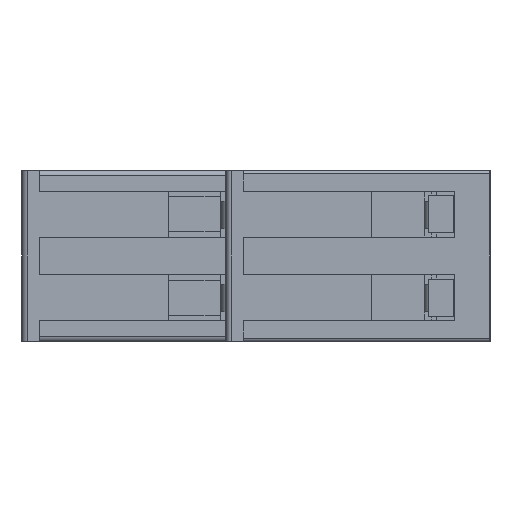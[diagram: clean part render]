
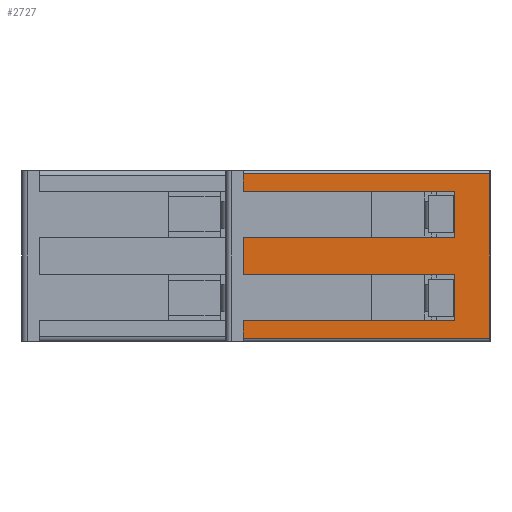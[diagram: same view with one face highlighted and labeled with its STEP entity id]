
A CAD part, left-side view. The second image highlights one B-rep face of the part: STEP entity #2727.
In plain terms, the highlighted planar face has unit normal (-1, 0, 0).
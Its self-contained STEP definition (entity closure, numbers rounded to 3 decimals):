
#2727=ADVANCED_FACE('',(#5065),#4032,.T.);
#4032=PLANE('',#27179);
#5065=FACE_OUTER_BOUND('',#6294,.T.);
#6294=EDGE_LOOP('',(#9139,#9140,#9141,#9142,#9143,#9144,#9145,#9146,#9147,
#9148,#9149,#9150));
#9139=ORIENTED_EDGE('',*,*,#18404,.T.);
#9140=ORIENTED_EDGE('',*,*,#18407,.T.);
#9141=ORIENTED_EDGE('',*,*,#18072,.F.);
#9142=ORIENTED_EDGE('',*,*,#18408,.T.);
#9143=ORIENTED_EDGE('',*,*,#18397,.T.);
#9144=ORIENTED_EDGE('',*,*,#18285,.T.);
#9145=ORIENTED_EDGE('',*,*,#18326,.F.);
#9146=ORIENTED_EDGE('',*,*,#18297,.T.);
#9147=ORIENTED_EDGE('',*,*,#18396,.T.);
#9148=ORIENTED_EDGE('',*,*,#18340,.T.);
#9149=ORIENTED_EDGE('',*,*,#18391,.F.);
#9150=ORIENTED_EDGE('',*,*,#18334,.T.);
#15505=VERTEX_POINT('',#37259);
#15506=VERTEX_POINT('',#37261);
#15683=VERTEX_POINT('',#37677);
#15684=VERTEX_POINT('',#37679);
#15692=VERTEX_POINT('',#37699);
#15693=VERTEX_POINT('',#37701);
#15711=VERTEX_POINT('',#37770);
#15712=VERTEX_POINT('',#37772);
#15716=VERTEX_POINT('',#37782);
#15717=VERTEX_POINT('',#37784);
#15748=VERTEX_POINT('',#37891);
#15752=VERTEX_POINT('',#37902);
#18072=EDGE_CURVE('',#15505,#15506,#21661,.T.);
#18285=EDGE_CURVE('',#15684,#15683,#21846,.T.);
#18297=EDGE_CURVE('',#15693,#15692,#21858,.T.);
#18326=EDGE_CURVE('',#15693,#15683,#21887,.T.);
#18334=EDGE_CURVE('',#15712,#15711,#21895,.T.);
#18340=EDGE_CURVE('',#15717,#15716,#21901,.T.);
#18391=EDGE_CURVE('',#15712,#15716,#21952,.T.);
#18396=EDGE_CURVE('',#15692,#15717,#21955,.T.);
#18397=EDGE_CURVE('',#15748,#15684,#21956,.T.);
#18404=EDGE_CURVE('',#15711,#15752,#21960,.T.);
#18407=EDGE_CURVE('',#15752,#15506,#21962,.T.);
#18408=EDGE_CURVE('',#15505,#15748,#21963,.T.);
#21661=LINE('',#37260,#24750);
#21846=LINE('',#37678,#24935);
#21858=LINE('',#37700,#24947);
#21887=LINE('',#37756,#24976);
#21895=LINE('',#37771,#24984);
#21901=LINE('',#37783,#24990);
#21952=LINE('',#37880,#25041);
#21955=LINE('',#37888,#25044);
#21956=LINE('',#37890,#25045);
#21960=LINE('',#37903,#25049);
#21962=LINE('',#37908,#25051);
#21963=LINE('',#37909,#25052);
#24750=VECTOR('',#29913,1.);
#24935=VECTOR('',#30208,1.);
#24947=VECTOR('',#30222,1.);
#24976=VECTOR('',#30279,1.);
#24984=VECTOR('',#30289,1.);
#24990=VECTOR('',#30297,1.);
#25041=VECTOR('',#30382,1.);
#25044=VECTOR('',#30391,1.);
#25045=VECTOR('',#30394,1.);
#25049=VECTOR('',#30406,1.);
#25051=VECTOR('',#30412,1.);
#25052=VECTOR('',#30413,1.);
#27179=AXIS2_PLACEMENT_3D('',#37910,#30414,#30415);
#29913=DIRECTION('',(0.,0.,-1.));
#30208=DIRECTION('',(0.,-1.,0.));
#30222=DIRECTION('',(0.,1.,0.));
#30279=DIRECTION('',(0.,0.,1.));
#30289=DIRECTION('',(0.,1.,0.));
#30297=DIRECTION('',(0.,-1.,0.));
#30382=DIRECTION('',(0.,0.,1.));
#30391=DIRECTION('',(0.,0.,-1.));
#30394=DIRECTION('',(0.,0.,-1.));
#30406=DIRECTION('',(0.,0.,-1.));
#30412=DIRECTION('',(0.,-1.,0.));
#30413=DIRECTION('',(0.,1.,0.));
#30414=DIRECTION('',(-1.,0.,0.));
#30415=DIRECTION('',(0.,0.,-1.));
#37259=CARTESIAN_POINT('',(-48.67,-59.2,15.3));
#37260=CARTESIAN_POINT('',(-48.67,-59.2,15.6));
#37261=CARTESIAN_POINT('',(-48.67,-59.2,0.3));
#37677=CARTESIAN_POINT('',(-48.67,-56.,13.7));
#37678=CARTESIAN_POINT('',(-48.67,-59.2,13.7));
#37679=CARTESIAN_POINT('',(-48.67,-36.7,13.7));
#37699=CARTESIAN_POINT('',(-48.67,-36.7,9.5));
#37700=CARTESIAN_POINT('',(-48.67,-59.2,9.5));
#37701=CARTESIAN_POINT('',(-48.67,-56.,9.5));
#37756=CARTESIAN_POINT('',(-48.67,-56.,15.6));
#37770=CARTESIAN_POINT('',(-48.67,-36.7,1.9));
#37771=CARTESIAN_POINT('',(-48.67,-59.2,1.9));
#37772=CARTESIAN_POINT('',(-48.67,-56.,1.9));
#37782=CARTESIAN_POINT('',(-48.67,-56.,6.1));
#37783=CARTESIAN_POINT('',(-48.67,-59.2,6.1));
#37784=CARTESIAN_POINT('',(-48.67,-36.7,6.1));
#37880=CARTESIAN_POINT('',(-48.67,-56.,15.6));
#37888=CARTESIAN_POINT('',(-48.67,-36.7,15.6));
#37890=CARTESIAN_POINT('',(-48.67,-36.7,15.6));
#37891=CARTESIAN_POINT('',(-48.67,-36.7,15.3));
#37902=CARTESIAN_POINT('',(-48.67,-36.7,0.3));
#37903=CARTESIAN_POINT('',(-48.67,-36.7,15.6));
#37908=CARTESIAN_POINT('',(-48.67,-59.2,0.3));
#37909=CARTESIAN_POINT('',(-48.67,-36.7,15.3));
#37910=CARTESIAN_POINT('',(-48.67,-59.2,15.6));
